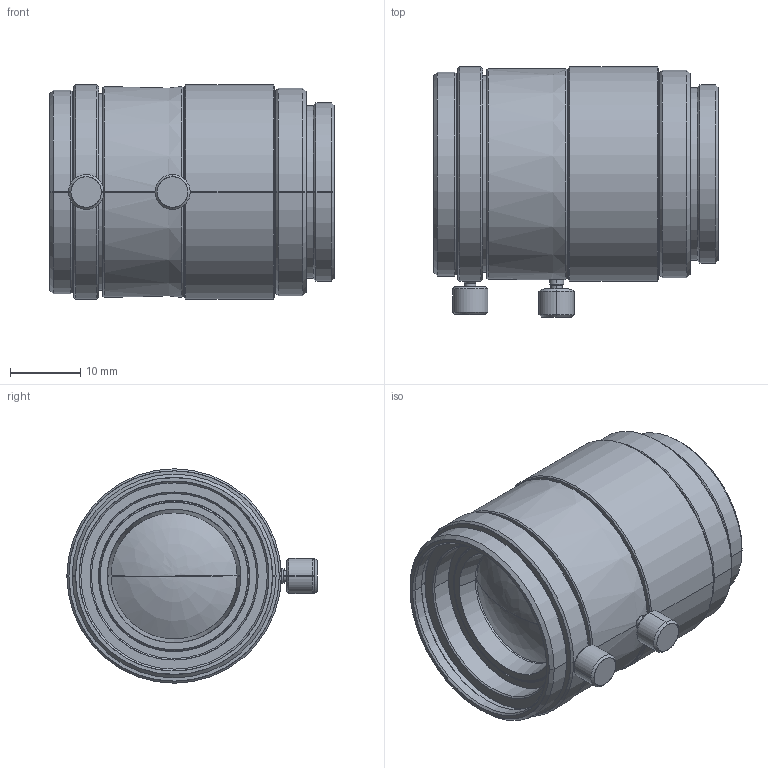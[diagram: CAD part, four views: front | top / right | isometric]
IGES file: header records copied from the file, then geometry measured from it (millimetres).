
Start section: SolidWorks IGES file using analytic representation for surfaces
Global section: file name: C:\Users\tsuji_vst\Documents\【図面】\_3D\00 VST\VS-LDA(APL)\VS-LDA35.IGS; native system: SolidWorks 2016; preprocessor: SolidWorks 2016; author: tsuji_vst; date: 160927.091424; units: millimetre
Bounding box: 40.47 x 35.6 x 30.5 mm (x, y, z)
Surface area: 7342.1 mm2 (no closed solid volume)
Topology: 0 solids, 0 shells, 136 faces, 2376 edges, 2374 vertices
Faces by surface type: revolution 114, bspline 22
